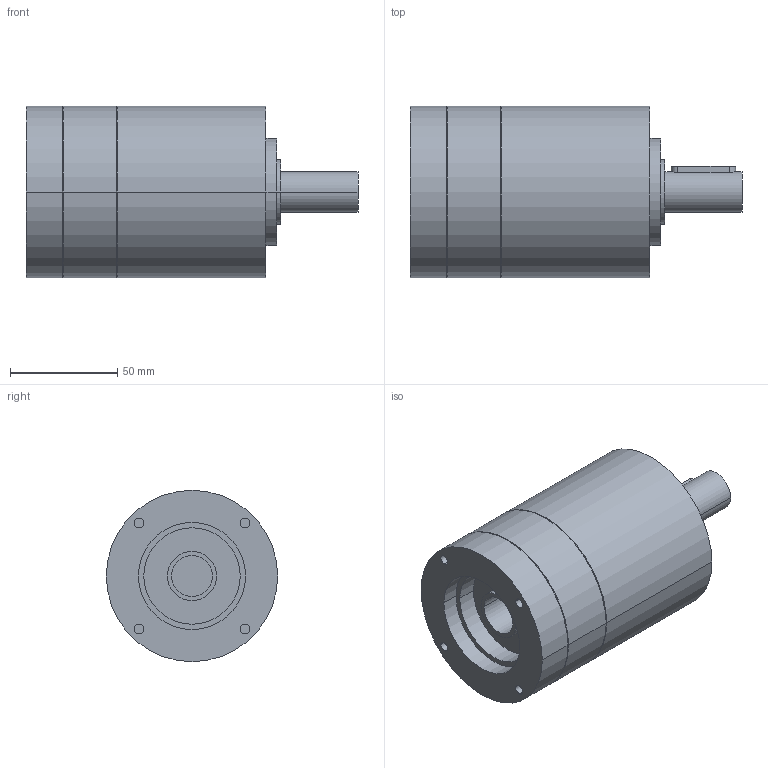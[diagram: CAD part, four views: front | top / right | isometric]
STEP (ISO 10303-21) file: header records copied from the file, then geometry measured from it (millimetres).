
FILE_DESCRIPTION(('CoCreate Modeling STEP Export'),'2;1');
FILE_NAME('GPR100_ig-3-4-5-6_19_B14_19_P15.stp','2014-08-26T10:08:42',(''),(''),'CoCreate Modeling STEP processor for AP214 (Solid Model)','CoCreate Modeling 16.00C 25-Feb-2009 (C) Parametric Technology GmbH','');
FILE_SCHEMA(('AUTOMOTIVE_DESIGN { 1 0 10303 214 1 1 1 1 }'));
Length unit declared in the file: millimetre
Products named in the file (2): GPR100_ig-3-4-5-6_19_B14_19_P15
Assembly tree (1 placements, depth 2):
  GPR100_ig-3-4-5-6_19_B14_19_P15
    GPR100_ig-3-4-5-6_19_B14_19_P15
Bounding box: 155 x 80 x 80 mm (x, y, z)
Volume: 543443.6 mm3; surface area: 49749.2 mm2
Topology: 1 solids, 1 shells, 80 faces, 204 edges, 146 vertices
Faces by surface type: cylinder 48, plane 26, cone 6
Entity records: 2036 total; most frequent: ORIENTED_EDGE 404, CARTESIAN_POINT 371, DIRECTION 262, EDGE_CURVE 202, VERTEX_POINT 146, EDGE_LOOP 102, AXIS2_PLACEMENT_3D 101, FACE_OUTER_BOUND 80
